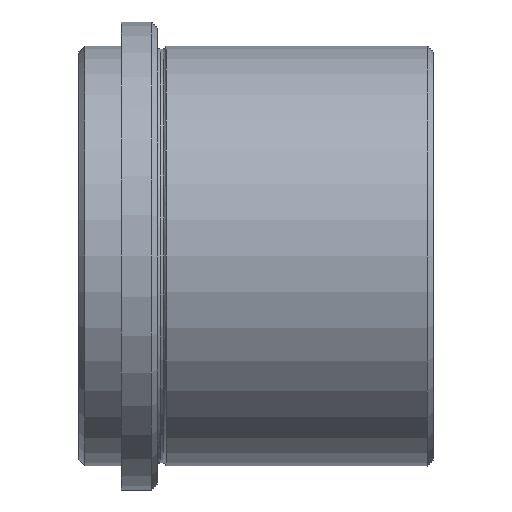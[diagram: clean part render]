
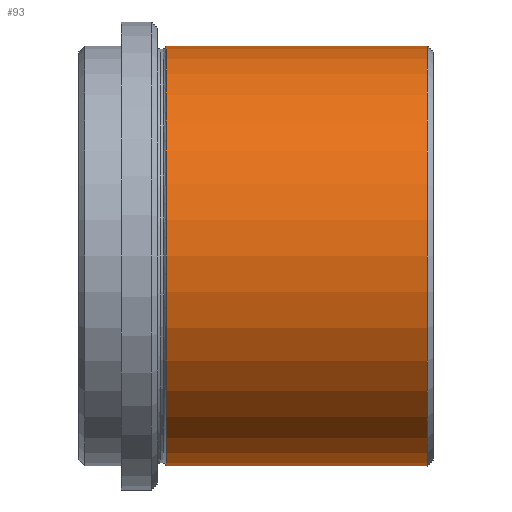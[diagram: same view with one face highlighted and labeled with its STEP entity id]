
A CAD part, left-side view. The second image highlights one B-rep face of the part: STEP entity #93.
In plain terms, the highlighted face is a revolution surface.
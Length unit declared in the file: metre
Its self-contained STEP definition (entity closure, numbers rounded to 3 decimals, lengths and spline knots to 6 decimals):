
#93 = ADVANCED_FACE( '', ( #142 ), #143, .F. );
#142 = FACE_OUTER_BOUND( '', #329, .T. );
#143 = SURFACE_OF_REVOLUTION( '', #330, #331 );
#329 = EDGE_LOOP( '', ( #527, #528, #529, #530 ) );
#330 = B_SPLINE_CURVE_WITH_KNOTS( '', 1, ( #531, #532 ), .UNSPECIFIED., .F., .F., ( 2, 2 ), ( -10000., 10000. ), .UNSPECIFIED. );
#331 = AXIS1_PLACEMENT( '', #533, #534 );
#527 = ORIENTED_EDGE( '', *, *, #643, .T. );
#528 = ORIENTED_EDGE( '', *, *, #644, .T. );
#529 = ORIENTED_EDGE( '', *, *, #638, .F. );
#530 = ORIENTED_EDGE( '', *, *, #645, .T. );
#531 = CARTESIAN_POINT( '', ( 0., 10000.0445, -0.035 ) );
#532 = CARTESIAN_POINT( '', ( 0., -9999.9555, -0.035 ) );
#533 = CARTESIAN_POINT( '', ( 0., 0.0445, 0. ) );
#534 = DIRECTION( '', ( 0., 1., 0. ) );
#638 = EDGE_CURVE( '', #713, #715, #716, .F. );
#643 = EDGE_CURVE( '', #723, #724, #725, .T. );
#644 = EDGE_CURVE( '', #724, #715, #726, .T. );
#645 = EDGE_CURVE( '', #713, #723, #727, .F. );
#713 = VERTEX_POINT( '', #867 );
#715 = VERTEX_POINT( '', #870 );
#716 = CIRCLE( '', #871, 0.035 );
#723 = VERTEX_POINT( '', #879 );
#724 = VERTEX_POINT( '', #880 );
#725 = CIRCLE( '', #881, 0.035 );
#726 = LINE( '', #882, #883 );
#727 = LINE( '', #884, #885 );
#867 = CARTESIAN_POINT( '', ( 0., 0.001, 0.035 ) );
#870 = CARTESIAN_POINT( '', ( 0., 0.001, -0.035 ) );
#871 = AXIS2_PLACEMENT_3D( '', #996, #997, #998 );
#879 = CARTESIAN_POINT( '', ( 0., 0.0445, 0.035 ) );
#880 = CARTESIAN_POINT( '', ( 0., 0.0445, -0.035 ) );
#881 = AXIS2_PLACEMENT_3D( '', #1009, #1010, #1011 );
#882 = CARTESIAN_POINT( '', ( 0., 0.0445, -0.035 ) );
#883 = VECTOR( '', #1012, 1. );
#884 = CARTESIAN_POINT( '', ( 0., 0.0445, 0.035 ) );
#885 = VECTOR( '', #1013, 1. );
#996 = CARTESIAN_POINT( '', ( 0., 0.001, 0. ) );
#997 = DIRECTION( '', ( 0., 1., 0. ) );
#998 = DIRECTION( '', ( 0., 0., 1. ) );
#1009 = CARTESIAN_POINT( '', ( 0., 0.0445, 0. ) );
#1010 = DIRECTION( '', ( 0., -1., 0. ) );
#1011 = DIRECTION( '', ( 0., 0., -1. ) );
#1012 = DIRECTION( '', ( 0., -1., 0. ) );
#1013 = DIRECTION( '', ( 0., -1., 0. ) );
